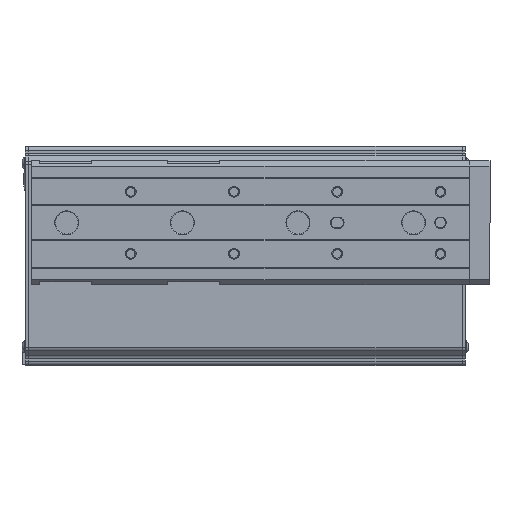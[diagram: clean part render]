
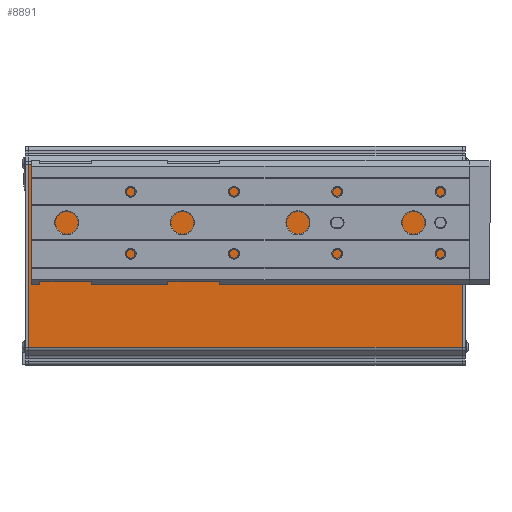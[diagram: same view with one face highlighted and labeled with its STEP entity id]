
A CAD part, top view. The second image highlights one B-rep face of the part: STEP entity #8891.
In plain terms, the highlighted planar face has unit normal (0, 0, 1).
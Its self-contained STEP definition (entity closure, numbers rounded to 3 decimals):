
#1065 = LINE ( 'NONE', #16619, #14248 ) ;
#1509 = EDGE_CURVE ( 'NONE', #2275, #14338, #2357, .T. ) ;
#1708 = AXIS2_PLACEMENT_3D ( 'NONE', #6835, #15404, #5704 ) ;
#2275 = VERTEX_POINT ( 'NONE', #3387 ) ;
#2357 = LINE ( 'NONE', #16680, #6613 ) ;
#2538 = DIRECTION ( 'NONE',  ( 0., -1., 0. ) ) ;
#2679 = ORIENTED_EDGE ( 'NONE', *, *, #13916, .T. ) ;
#3372 = CARTESIAN_POINT ( 'NONE',  ( -105., 53., 51. ) ) ;
#3387 = CARTESIAN_POINT ( 'NONE',  ( 105., -44.172, 51. ) ) ;
#3760 = FACE_OUTER_BOUND ( 'NONE', #13319, .T. ) ;
#5458 = DIRECTION ( 'NONE',  ( 0., 1., 0. ) ) ;
#5479 = VERTEX_POINT ( 'NONE', #18041 ) ;
#5704 = DIRECTION ( 'NONE',  ( 1., 0., 0. ) ) ;
#6583 = VECTOR ( 'NONE', #15052, 1000. ) ;
#6613 = VECTOR ( 'NONE', #5458, 1000. ) ;
#6835 = CARTESIAN_POINT ( 'NONE',  ( 0., 0., 51. ) ) ;
#7056 = ORIENTED_EDGE ( 'NONE', *, *, #16533, .T. ) ;
#7872 = ORIENTED_EDGE ( 'NONE', *, *, #1509, .T. ) ;
#8134 = VECTOR ( 'NONE', #2538, 1000. ) ;
#8891 = ADVANCED_FACE ( 'NONE', ( #3760 ), #11666, .T. ) ;
#10136 = EDGE_CURVE ( 'NONE', #14338, #12780, #1065, .T. ) ;
#10637 = LINE ( 'NONE', #3372, #8134 ) ;
#11666 = PLANE ( 'NONE',  #1708 ) ;
#11887 = CARTESIAN_POINT ( 'NONE',  ( -105., 44.172, 51. ) ) ;
#12780 = VERTEX_POINT ( 'NONE', #11887 ) ;
#13319 = EDGE_LOOP ( 'NONE', ( #7056, #2679, #7872, #16629 ) ) ;
#13916 = EDGE_CURVE ( 'NONE', #5479, #2275, #15971, .T. ) ;
#14248 = VECTOR ( 'NONE', #14933, 1000. ) ;
#14338 = VERTEX_POINT ( 'NONE', #15324 ) ;
#14933 = DIRECTION ( 'NONE',  ( -1., 0., 0. ) ) ;
#15052 = DIRECTION ( 'NONE',  ( 1., 0., 0. ) ) ;
#15324 = CARTESIAN_POINT ( 'NONE',  ( 105., 44.172, 51. ) ) ;
#15404 = DIRECTION ( 'NONE',  ( 0., 0., 1. ) ) ;
#15971 = LINE ( 'NONE', #16674, #6583 ) ;
#16533 = EDGE_CURVE ( 'NONE', #12780, #5479, #10637, .T. ) ;
#16619 = CARTESIAN_POINT ( 'NONE',  ( -105., 44.172, 51. ) ) ;
#16629 = ORIENTED_EDGE ( 'NONE', *, *, #10136, .T. ) ;
#16674 = CARTESIAN_POINT ( 'NONE',  ( 105., -44.172, 51. ) ) ;
#16680 = CARTESIAN_POINT ( 'NONE',  ( 105., 53., 51. ) ) ;
#18041 = CARTESIAN_POINT ( 'NONE',  ( -105., -44.172, 51. ) ) ;
